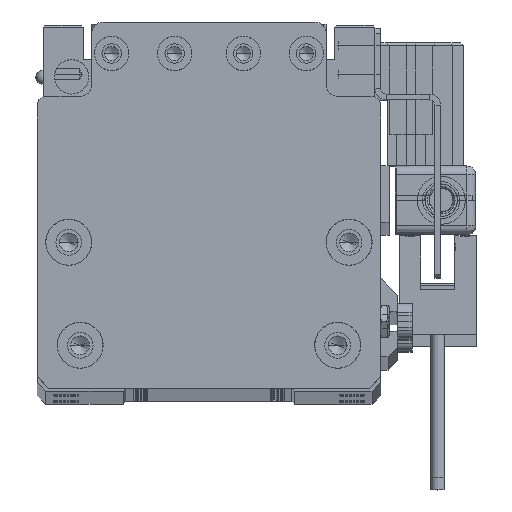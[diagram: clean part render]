
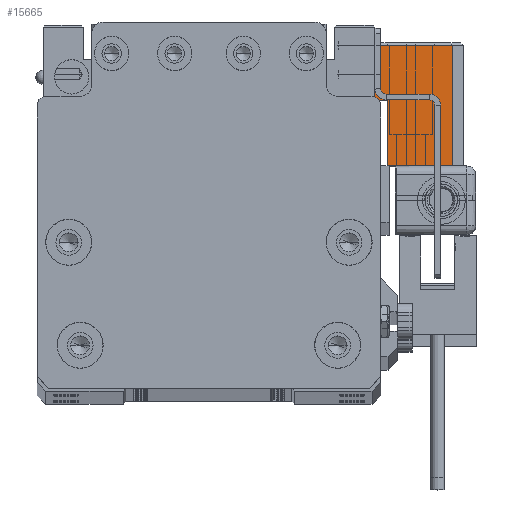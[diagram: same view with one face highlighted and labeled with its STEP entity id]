
A CAD part, top view. The second image highlights one B-rep face of the part: STEP entity #15665.
In plain terms, the highlighted planar face has unit normal (0, 0, 1) as drawn and (-1, 0, 0) by its records, which use the part's own axes.
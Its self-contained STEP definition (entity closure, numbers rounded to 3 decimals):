
#72 = VERTEX_POINT ( 'NONE', #1855 ) ;
#126 = CARTESIAN_POINT ( 'NONE',  ( -17., -10.75, -13.3 ) ) ;
#1329 = FACE_OUTER_BOUND ( 'NONE', #7801, .T. ) ;
#1855 = CARTESIAN_POINT ( 'NONE',  ( -17., 10.25, -15.5 ) ) ;
#2787 = EDGE_CURVE ( 'NONE', #72, #5145, #36368, .T. ) ;
#4433 = DIRECTION ( 'NONE',  ( -1., 0., 0. ) ) ;
#5145 = VERTEX_POINT ( 'NONE', #52935 ) ;
#5217 = VERTEX_POINT ( 'NONE', #37628 ) ;
#5596 = CARTESIAN_POINT ( 'NONE',  ( -17., 10.25, -15.5 ) ) ;
#5744 = ORIENTED_EDGE ( 'NONE', *, *, #2787, .T. ) ;
#6079 = DIRECTION ( 'NONE',  ( 0., -1., 0. ) ) ;
#7801 = EDGE_LOOP ( 'NONE', ( #63899, #64305, #5744, #14773, #18513, #58875 ) ) ;
#8235 = VECTOR ( 'NONE', #44960, 1000. ) ;
#9355 = VERTEX_POINT ( 'NONE', #16709 ) ;
#10594 = DIRECTION ( 'NONE',  ( 0., 0., -1. ) ) ;
#13533 = DIRECTION ( 'NONE',  ( 0., 0., 1. ) ) ;
#14200 = CARTESIAN_POINT ( 'NONE',  ( -17., -10.75, -15.5 ) ) ;
#14773 = ORIENTED_EDGE ( 'NONE', *, *, #48325, .T. ) ;
#15665 = ADVANCED_FACE ( 'NONE', ( #1329 ), #30318, .T. ) ;
#16474 = VERTEX_POINT ( 'NONE', #21427 ) ;
#16709 = CARTESIAN_POINT ( 'NONE',  ( -17., 0.75, -13.3 ) ) ;
#18513 = ORIENTED_EDGE ( 'NONE', *, *, #26166, .T. ) ;
#19653 = LINE ( 'NONE', #30943, #8235 ) ;
#20953 = CARTESIAN_POINT ( 'NONE',  ( -17., -10.75, -13.3 ) ) ;
#21427 = CARTESIAN_POINT ( 'NONE',  ( -17., -10.75, -2. ) ) ;
#21924 = LINE ( 'NONE', #52526, #42678 ) ;
#26166 = EDGE_CURVE ( 'NONE', #9355, #48273, #35654, .T. ) ;
#28133 = VECTOR ( 'NONE', #13533, 1000. ) ;
#29658 = CARTESIAN_POINT ( 'NONE',  ( -17., -10.75, -15.5 ) ) ;
#29989 = DIRECTION ( 'NONE',  ( 0., 0., 1. ) ) ;
#30318 = PLANE ( 'NONE',  #41604 ) ;
#30943 = CARTESIAN_POINT ( 'NONE',  ( -17., 10.75, -2. ) ) ;
#35654 = LINE ( 'NONE', #126, #49638 ) ;
#36368 = LINE ( 'NONE', #56653, #40270 ) ;
#36879 = DIRECTION ( 'NONE',  ( 0., 0., 1. ) ) ;
#37628 = CARTESIAN_POINT ( 'NONE',  ( -17., 10.25, -2. ) ) ;
#39311 = EDGE_CURVE ( 'NONE', #48273, #16474, #39459, .T. ) ;
#39459 = LINE ( 'NONE', #14200, #28133 ) ;
#40270 = VECTOR ( 'NONE', #56971, 1000. ) ;
#41523 = EDGE_CURVE ( 'NONE', #16474, #5217, #19653, .T. ) ;
#41604 = AXIS2_PLACEMENT_3D ( 'NONE', #29658, #4433, #29989 ) ;
#42678 = VECTOR ( 'NONE', #36879, 1000. ) ;
#44960 = DIRECTION ( 'NONE',  ( 0., 1., 0. ) ) ;
#46920 = EDGE_CURVE ( 'NONE', #5217, #72, #61766, .T. ) ;
#48273 = VERTEX_POINT ( 'NONE', #20953 ) ;
#48325 = EDGE_CURVE ( 'NONE', #5145, #9355, #21924, .T. ) ;
#49638 = VECTOR ( 'NONE', #6079, 1000. ) ;
#52526 = CARTESIAN_POINT ( 'NONE',  ( -17., 0.75, -15.5 ) ) ;
#52935 = CARTESIAN_POINT ( 'NONE',  ( -17., 0.75, -15.5 ) ) ;
#56653 = CARTESIAN_POINT ( 'NONE',  ( -17., -10.75, -15.5 ) ) ;
#56971 = DIRECTION ( 'NONE',  ( 0., -1., 0. ) ) ;
#58875 = ORIENTED_EDGE ( 'NONE', *, *, #39311, .T. ) ;
#60510 = VECTOR ( 'NONE', #10594, 1000. ) ;
#61766 = LINE ( 'NONE', #5596, #60510 ) ;
#63899 = ORIENTED_EDGE ( 'NONE', *, *, #41523, .T. ) ;
#64305 = ORIENTED_EDGE ( 'NONE', *, *, #46920, .T. ) ;
